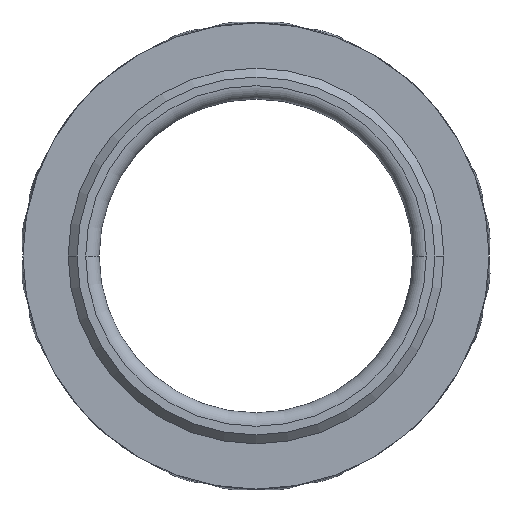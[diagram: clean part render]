
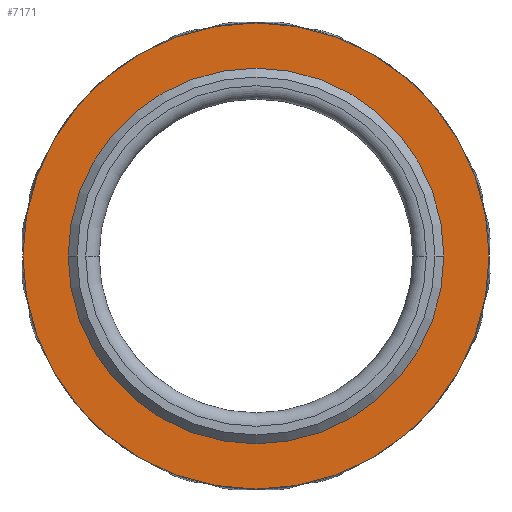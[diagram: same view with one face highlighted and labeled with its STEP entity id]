
A CAD part, front view. The second image highlights one B-rep face of the part: STEP entity #7171.
In plain terms, the highlighted planar face has unit normal (0, -1, 0).
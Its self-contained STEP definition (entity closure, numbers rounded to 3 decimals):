
#439 = AXIS2_PLACEMENT_3D ( 'NONE', #7595, #2844, #8340 ) ;
#589 = CARTESIAN_POINT ( 'NONE',  ( -3020.704, -8750.317, 0. ) ) ;
#606 = CIRCLE ( 'NONE', #905, 26. ) ;
#617 = CIRCLE ( 'NONE', #439, 19.45 ) ;
#837 = ORIENTED_EDGE ( 'NONE', *, *, #4595, .T. ) ;
#905 = AXIS2_PLACEMENT_3D ( 'NONE', #6220, #8514, #1700 ) ;
#1149 = EDGE_CURVE ( 'NONE', #2392, #5428, #3704, .T. ) ;
#1330 = DIRECTION ( 'NONE',  ( 0., -1., 0. ) ) ;
#1405 = DIRECTION ( 'NONE',  ( 1., 0., 0. ) ) ;
#1695 = FACE_OUTER_BOUND ( 'NONE', #4326, .T. ) ;
#1700 = DIRECTION ( 'NONE',  ( 1., 0., 0. ) ) ;
#1764 = CARTESIAN_POINT ( 'NONE',  ( -3014.154, -8750.317, 0. ) ) ;
#2282 = AXIS2_PLACEMENT_3D ( 'NONE', #589, #8402, #4560 ) ;
#2392 = VERTEX_POINT ( 'NONE', #1764 ) ;
#2844 = DIRECTION ( 'NONE',  ( 0., -1., 0. ) ) ;
#3704 = CIRCLE ( 'NONE', #9309, 19.45 ) ;
#4290 = EDGE_LOOP ( 'NONE', ( #6628, #5912 ) ) ;
#4326 = EDGE_LOOP ( 'NONE', ( #8560, #837 ) ) ;
#4545 = CARTESIAN_POINT ( 'NONE',  ( -2994.704, -8750.317, 0. ) ) ;
#4553 = VERTEX_POINT ( 'NONE', #9929 ) ;
#4560 = DIRECTION ( 'NONE',  ( -1., 0., 0. ) ) ;
#4595 = EDGE_CURVE ( 'NONE', #4553, #7233, #5820, .T. ) ;
#4697 = CARTESIAN_POINT ( 'NONE',  ( -2968.704, -8750.317, 0. ) ) ;
#5234 = DIRECTION ( 'NONE',  ( 0., -1., 0. ) ) ;
#5333 = PLANE ( 'NONE',  #2282 ) ;
#5428 = VERTEX_POINT ( 'NONE', #6736 ) ;
#5820 = CIRCLE ( 'NONE', #8210, 26. ) ;
#5912 = ORIENTED_EDGE ( 'NONE', *, *, #1149, .F. ) ;
#6047 = FACE_BOUND ( 'NONE', #4290, .T. ) ;
#6220 = CARTESIAN_POINT ( 'NONE',  ( -2994.704, -8750.317, 0. ) ) ;
#6315 = EDGE_CURVE ( 'NONE', #5428, #2392, #617, .T. ) ;
#6385 = EDGE_CURVE ( 'NONE', #7233, #4553, #606, .T. ) ;
#6628 = ORIENTED_EDGE ( 'NONE', *, *, #6315, .F. ) ;
#6736 = CARTESIAN_POINT ( 'NONE',  ( -2975.254, -8750.317, 0. ) ) ;
#6858 = DIRECTION ( 'NONE',  ( 1., 0., 0. ) ) ;
#7171 = ADVANCED_FACE ( 'NONE', ( #6047, #1695 ), #5333, .F. ) ;
#7233 = VERTEX_POINT ( 'NONE', #4697 ) ;
#7595 = CARTESIAN_POINT ( 'NONE',  ( -2994.704, -8750.317, 0. ) ) ;
#8210 = AXIS2_PLACEMENT_3D ( 'NONE', #4545, #1330, #1405 ) ;
#8340 = DIRECTION ( 'NONE',  ( 1., 0., 0. ) ) ;
#8402 = DIRECTION ( 'NONE',  ( 0., 1., 0. ) ) ;
#8441 = CARTESIAN_POINT ( 'NONE',  ( -2994.704, -8750.317, 0. ) ) ;
#8514 = DIRECTION ( 'NONE',  ( 0., -1., 0. ) ) ;
#8560 = ORIENTED_EDGE ( 'NONE', *, *, #6385, .T. ) ;
#9309 = AXIS2_PLACEMENT_3D ( 'NONE', #8441, #5234, #6858 ) ;
#9929 = CARTESIAN_POINT ( 'NONE',  ( -3020.704, -8750.317, 0. ) ) ;
